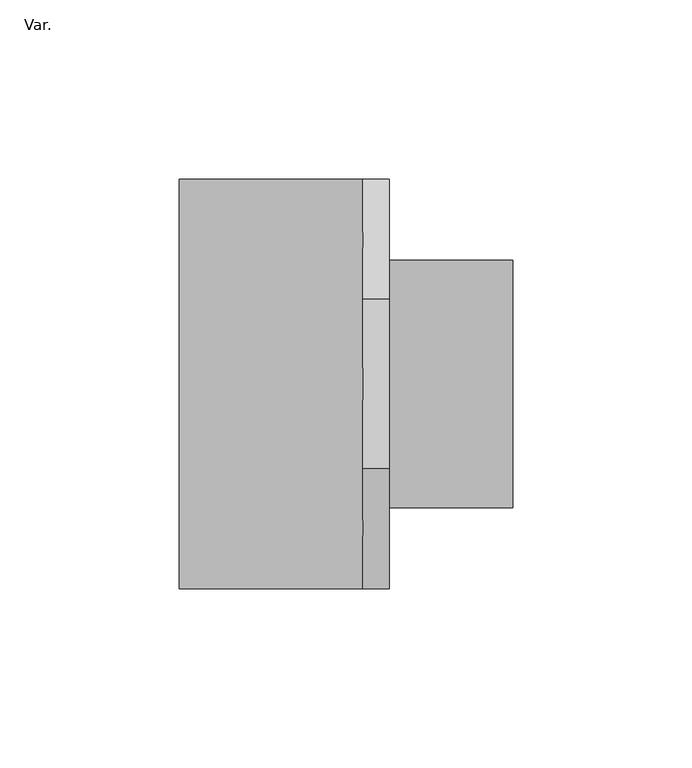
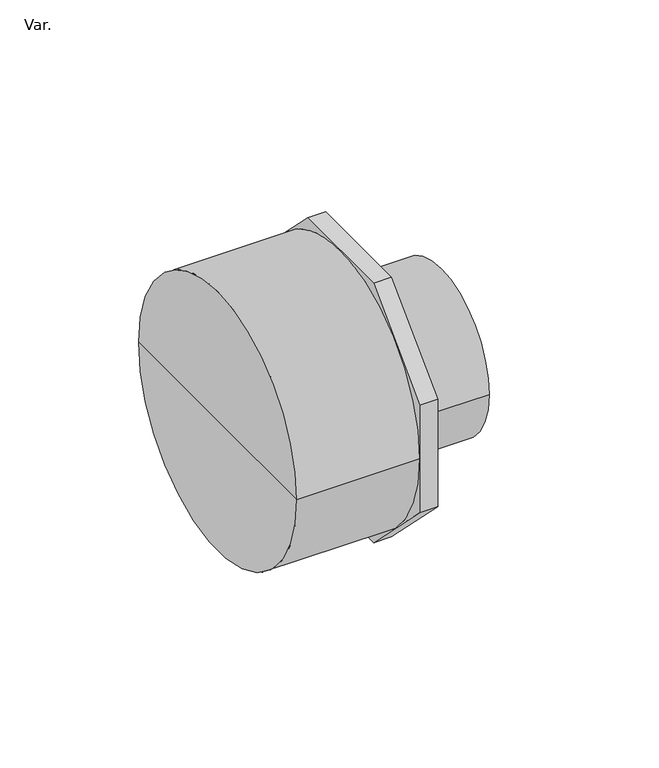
"""IFC4 building model written with IfcOpenShell, lengths in millimetres: pipe fitting geometry, AmancoWavin_Unionesdetubería_AguaPotableZNoUsarReducer : Var.."""

from ifc_helpers import new_model, si_unit, frame, origin, place, context, project, spatial, polyline, circle_curve, source, transform, mapped, element, save
from ifc_brep_helpers import plane_surface, cylinder_surface, revolved_surface, advanced_brep


def var_b961cbb1(model_context):
    return source(origin(), model_context, "Body", "AdvancedBrep", [
        advanced_brep(
        [(58.06, 34.58, 0.0), (93.2, 34.58, 0.0), (93.2, -34.58, 0.0), (58.06, -34.58, 0.0), (58.06, 30.165, 0.0), (58.06, -30.165, 0.0), (93.2, 30.165, 0.0), (93.2, -30.165, 0.0)],
        [
            (0, 1),
            (1, 2, circle_curve(frame((93.2, 0.0, 0.0), z_axis=(-1.0, 0.0, 0.0), x_axis=(0.0, -1.0, 0.0)), 34.58)),
            (2, 3),
            (3, 0, circle_curve(frame((58.06, 0.0, 0.0), z_axis=(1.0, 0.0, 0.0), x_axis=(0.0, -1.0, 0.0)), 34.58)),
            (2, 1, circle_curve(frame((93.2, 0.0, 0.0), z_axis=(-1.0, 0.0, 0.0), x_axis=(0.0, -1.0, 0.0)), 34.58)),
            (0, 3, circle_curve(frame((58.06, 0.0, 0.0), z_axis=(1.0, 0.0, 0.0), x_axis=(0.0, -1.0, 0.0)), 34.58)),
            (4, 0),
            (3, 5),
            (5, 4, circle_curve(frame((58.06, 0.0, 0.0), z_axis=(1.0, 0.0, 0.0), x_axis=(0.0, -1.0, 0.0)), 30.165)),
            (4, 5, circle_curve(frame((58.06, 0.0, 0.0), z_axis=(1.0, 0.0, 0.0), x_axis=(0.0, -1.0, 0.0)), 30.165)),
            (6, 4),
            (5, 7),
            (7, 6, circle_curve(frame((93.2, 0.0, 0.0), z_axis=(1.0, 0.0, 0.0), x_axis=(0.0, -1.0, 0.0)), 30.165)),
            (6, 7, circle_curve(frame((93.2, 0.0, 0.0), z_axis=(1.0, 0.0, 0.0), x_axis=(0.0, -1.0, 0.0)), 30.165)),
            (1, 6),
            (7, 2),
        ],
        [
            cylinder_surface(frame((2035.25, 0.0, 0.0), z_axis=(-1.0, 0.0, 0.0), x_axis=(0.0, -1.0, 0.0)), 34.58),
            plane_surface(frame((58.06, 0.0, 0.0), z_axis=(-1.0, 0.0, 0.0), x_axis=(0.0, -1.0, 0.0))),
            revolved_surface(polyline([(58.059999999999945, -30.165, 0.0), (93.20000000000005, -30.165, 0.0)]), (2035.25, 0.0, 0.0), (-1.0, 0.0, 0.0)),
            plane_surface(frame((93.2, 0.0, 0.0), z_axis=(1.0, 0.0, 0.0), x_axis=(0.0, -1.0, 0.0))),
        ],
        [
            (0, [[1, 2, 3, 4]]),
            (0, [[-3, 5, -1, 6]]),
            (1, [[7, -4, 8, 9]]),
            (1, [[-8, -6, -7, 10]]),
            (2, [[11, -9, 12, 13]]),
            (2, [[-12, -10, -11, 14]]),
            (3, [[15, -13, 16, -2]]),
            (3, [[-16, -14, -15, -5]]),
        ],
    ),
        advanced_brep(
        [(51.28, -57.215, -23.699229), (51.28, -57.15, 0.0), (51.28, 57.15, 0.0), (51.28, 57.215, -23.699229), (51.28, 23.699229, -57.215), (51.28, -23.699229, -57.215), (51.28, 57.215, 23.699229), (51.28, -57.215, 23.699229), (51.28, -23.699229, 57.215), (51.28, 23.699229, 57.215), (58.71, 57.215, 23.699229), (58.71, 23.699229, 57.215), (58.71, -23.699229, 57.215), (58.71, -57.215, 23.699229), (58.71, -57.215, -23.699229), (58.71, -23.699229, -57.215), (58.71, 23.699229, -57.215), (58.71, 57.215, -23.699229), (58.71, 30.165, 0.0), (58.71, -30.165, 0.0), (58.06, -30.165, 0.0), (58.06, 30.165, 0.0), (58.06, 0.0, 0.0), (0.0, 57.15, 0.0), (0.0, -57.15, 0.0), (0.0, 0.0, 0.0)],
        [
            (0, 1),
            (1, 2, circle_curve(frame((51.28, 0.0, 0.0), z_axis=(1.0, 0.0, 0.0), x_axis=(0.0, -1.0, 0.0)), 57.15)),
            (2, 3),
            (3, 4),
            (4, 5),
            (5, 0),
            (6, 2),
            (2, 1, circle_curve(frame((51.28, 0.0, 0.0), z_axis=(1.0, 0.0, 0.0), x_axis=(0.0, -1.0, 0.0)), 57.15)),
            (1, 7),
            (7, 8),
            (8, 9),
            (9, 6),
            (10, 11),
            (11, 12),
            (12, 13),
            (13, 14),
            (14, 15),
            (15, 16),
            (16, 17),
            (17, 10),
            (18, 19, circle_curve(frame((58.71, 0.0, 0.0), z_axis=(-1.0, 0.0, 0.0), x_axis=(0.0, -1.0, 0.0)), 30.165)),
            (19, 18, circle_curve(frame((58.71, 0.0, 0.0), z_axis=(-1.0, 0.0, 0.0), x_axis=(0.0, -1.0, 0.0)), 30.165)),
            (19, 20),
            (20, 21, circle_curve(frame((58.06, 0.0, 0.0), z_axis=(-1.0, 0.0, 0.0), x_axis=(0.0, -1.0, 0.0)), 30.165)),
            (21, 18),
            (21, 20, circle_curve(frame((58.06, 0.0, 0.0), z_axis=(-1.0, 0.0, 0.0), x_axis=(0.0, -1.0, 0.0)), 30.165)),
            (21, 22),
            (22, 20),
            (23, 2),
            (1, 24),
            (24, 23, circle_curve(frame((0.0, 0.0, 0.0), z_axis=(1.0, 0.0, 0.0), x_axis=(0.0, -1.0, 0.0)), 57.15)),
            (23, 24, circle_curve(frame((0.0, 0.0, 0.0), z_axis=(1.0, 0.0, 0.0), x_axis=(0.0, -1.0, 0.0)), 57.15)),
            (24, 25),
            (25, 23),
            (17, 3),
            (6, 10),
            (16, 4),
            (15, 5),
            (14, 0),
            (13, 7),
            (12, 8),
            (11, 9),
        ],
        [
            plane_surface(frame((51.28, -30.165, 0.0), z_axis=(-1.0, 0.0, 0.0), x_axis=(0.0, 0.0, 1.0))),
            plane_surface(frame((58.71, -30.165, 0.0), z_axis=(1.0, 0.0, 0.0), x_axis=(0.0, 0.0, -1.0))),
            revolved_surface(polyline([(58.06, -30.165, 0.0), (58.71, -30.165, 0.0)]), (51.28, 0.0, 0.0), (-1.0, 0.0, 0.0)),
            plane_surface(frame((58.06, 0.0, 0.0), z_axis=(1.0, 0.0, 0.0), x_axis=(0.0, -1.0, 0.0))),
            cylinder_surface(frame((1837.58, 0.0, 0.0), z_axis=(-1.0, 0.0, 0.0), x_axis=(0.0, -1.0, 0.0)), 57.15),
            plane_surface(frame((0.0, 0.0, 0.0), z_axis=(-1.0, 0.0, 0.0), x_axis=(0.0, -1.0, 0.0))),
            plane_surface(frame((58.71, 57.215, 23.699229), z_axis=(0.0, 1.0, 0.0), x_axis=(-1.0, 0.0, 0.0))),
            plane_surface(frame((58.71, 57.215, -23.699229), z_axis=(0.0, 0.7071067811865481, -0.7071067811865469), x_axis=(-1.0, 0.0, 0.0))),
            plane_surface(frame((58.71, 23.699229, -57.215), z_axis=(0.0, 0.0, -1.0), x_axis=(-1.0, 0.0, 0.0))),
            plane_surface(frame((58.71, -23.699229, -57.215), z_axis=(0.0, -0.7071067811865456, -0.7071067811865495), x_axis=(-1.0, 0.0, 0.0))),
            plane_surface(frame((58.71, -57.215, -23.699229), z_axis=(0.0, -1.0, 0.0), x_axis=(-1.0, 0.0, 0.0))),
            plane_surface(frame((58.71, -57.215, 23.699229), z_axis=(0.0, -0.7071067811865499, 0.7071067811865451), x_axis=(-1.0, 0.0, 0.0))),
            plane_surface(frame((58.71, -23.699229, 57.215), z_axis=(0.0, 0.0, 1.0), x_axis=(-1.0, 0.0, 0.0))),
            plane_surface(frame((58.71, 23.699229, 57.215), z_axis=(0.0, 0.7071067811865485, 0.7071067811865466), x_axis=(-1.0, 0.0, 0.0))),
        ],
        [
            (0, [[1, 2, 3, 4, 5, 6]]),
            (0, [[7, 8, 9, 10, 11, 12]]),
            (1, [[13, 14, 15, 16, 17, 18, 19, 20], [21, 22]]),
            (2, [[23, 24, 25, -22]]),
            (2, [[-25, 26, -23, -21]]),
            (3, [[-26, 27, 28]]),
            (3, [[-27, -24, -28]]),
            (4, [[29, -2, 30, 31]]),
            (4, [[-8, -29, 32, -30]]),
            (5, [[33, 34, -31]]),
            (5, [[-34, -33, -32]]),
            (6, [[35, -3, -7, 36, -20]]),
            (7, [[-35, -19, 37, -4]]),
            (8, [[-37, -18, 38, -5]]),
            (9, [[-38, -17, 39, -6]]),
            (10, [[40, -9, -1, -39, -16]]),
            (11, [[-40, -15, 41, -10]]),
            (12, [[-41, -14, 42, -11]]),
            (13, [[-42, -13, -36, -12]]),
        ],
    ),
    ])


if __name__ == "__main__":
    model = new_model("IFC4")
    model_context = context("Model", 3, world=origin())
    ifc_project = project(units=[si_unit("LENGTHUNIT", "METRE", prefix="MILLI")], contexts=[model_context])
    site = spatial("IfcSite", under=ifc_project)
    building = spatial("IfcBuilding", under=site)
    placement = place(None, origin())
    var_shape = var_b961cbb1(model_context)
    element("IfcPipeFitting", 1, ObjectType="AmancoWavin_Unionesdetubería_AguaPotableZNoUsarReducer : Var.", at=placement, inside=building, context=model_context, shape_type="MappedRepresentation", body=[
        mapped(var_shape, transform((0.0, 0.0, 0.0), x_axis=(1.0, 0.0, 0.0), y_axis=(0.0, 1.0, 0.0), z_axis=(0.0, 0.0, 1.0))),
    ])
    save(model, "model.ifc")
